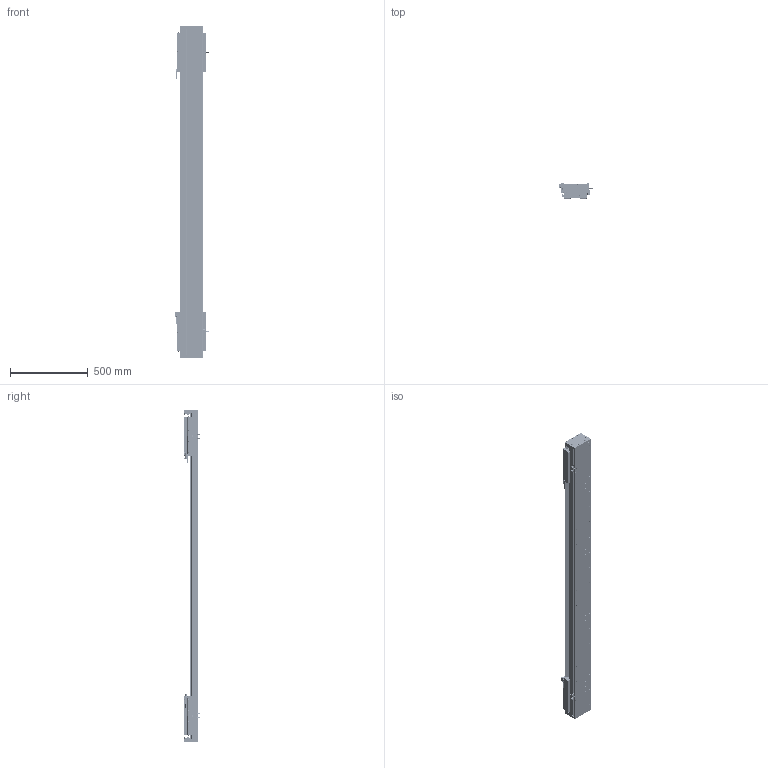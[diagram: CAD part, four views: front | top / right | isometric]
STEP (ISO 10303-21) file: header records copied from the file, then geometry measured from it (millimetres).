
FILE_DESCRIPTION (( 'STEP AP203' ), '1' );
FILE_NAME ('DA-C145-2-C3-T1520-C010-0.2 眻盄萇儂.STEP', '2025-08-13T10:21:19', ( '' ), ( '' ), 'SwSTEP 2.0', 'SolidWorks 2019', '' );
FILE_SCHEMA (( 'CONFIG_CONTROL_DESIGN' ));
Length unit declared in the file: millimetre
Products named in the file (38): 复件 DA146 钢带拉块^复件 CU145 钢带组件_DA-C145-2-C3-T-C010-0.2; CU145-W-00 珨极趙賑雄怢啣; 葩璃 鞠褒情蹟譫 M3^DA-C145-2-C3-T-C010-0.2; 葩璃 PM-Y65^DA-C145-2-C3-T-C010-0.2; 葩璃 DA145-C3-DP-B-00 菜えB^CU145-W 幗紩賑怢; 葩璃 DA95-HXJ-00 遣喳砎蝶^DA-C145-2-C3-T-C010-0.2; 复件 DA145-C3-YB-A-00 压板A^CU145-W 滚珠滑台; CU145-W 幗紩賑怢-1; 66245-CU145-HT-W-00 賑雄怢啣(3D芞祧)(00); 葩璃 DA95-GT-T-00^IU-CU145-L 菁釱絳寢; 复件 DA145 钢带^复件 CU145 钢带组件_DA-C145-2-C3-T-C010-0.2; DKW-GYP-ZJ-00 笢潔嫖萇覜茼え; 复件 DA146 钢带垫块^复件 CU145 钢带组件_DA-C145-2-C3-T-C010-0.2; 复件 DA145-GYP-00 光电感应片^DA-C145-2-C3-T-C010-0.2; 复件 半圆头内六角螺钉 M3×6^CU145-W 滚珠滑台; 葩璃 XD-U-02L 棠掑喜^DA-C145-2-C3-T-C010-0.2; DKW168-HXJ-ZJ-00 笢潔滅袉砎蝶; 葩璃 CKM03-W060-C1C2-TP-0.2^DA-C145-2-C3-T-C010-0.2; 复件 内六角平端紧定螺钉 GB.T77-2000 M5×10^CU145-W 滚珠滑台; 复件 DA95-HK-GT-00 滑块钢轨^CU145-W-00 一体化滑动台板; DKW-KGZ-ZJ-00 中间光电开关支架; 复件 DA95-DB-00  挡板^CU145-W 滚珠滑台; 葩璃 DA145-C3-DP-A-00 菜えA^CU145-W 幗紩賑怢; IU-CU145-L 菁釱絳寢; 复件 DA145-C3-DK-00 挡块^CU145-W 滚珠滑台; IU-CU145-L-00 菁釱(L2100); CU145-W 幗紩賑怢; 葩璃 CKMA01-W060-TRL^DA-C145-2-C3-T-C010-0.2; 复件 DA145-C3-YB-B-00 压板B^CU145-W 滚珠滑台; 复件 DA95-MFP-01 密封片^CU145-W 滚珠滑台; TAY01-M8; 葩璃 CU145 詩湍郪璃^DA-C145-2-C3-T-C010-0.2; 葩璃 DMA-010-0.2 黍杅芛^DA-C145-2-C3-T-C010-0.2; 复件 纯铜油杯 6x6mm^CU145-W 滚珠滑台; DA-C145-2-C3-T1520-C010-0.2 眻盄萇儂; 葩璃 PM-T45^DA-C145-2-C3-T-C010-0.2; 复件 DA145-DG 钢带端盖^复件 CU145 钢带组件_DA-C145-2-C3-T-C010-0.2; CU145-W-00 珨极趙賑雄怢啣-1
Assembly tree (180 placements, depth 4):
  DA-C145-2-C3-T1520-C010-0.2 眻盄萇儂
    IU-CU145-L 菁釱絳寢
      IU-CU145-L-00 菁釱(L2100)
      葩璃 DA95-GT-T-00^IU-CU145-L 菁釱絳寢  x4
    葩璃 CU145 詩湍郪璃^DA-C145-2-C3-T-C010-0.2
      复件 DA145-DG 钢带端盖^复件 CU145 钢带组件_DA-C145-2-C3-T-C010-0.2  x2
      复件 DA146 钢带拉块^复件 CU145 钢带组件_DA-C145-2-C3-T-C010-0.2  x2
      复件 DA146 钢带垫块^复件 CU145 钢带组件_DA-C145-2-C3-T-C010-0.2  x2
      复件 DA145 钢带^复件 CU145 钢带组件_DA-C145-2-C3-T-C010-0.2
    CU145-W 幗紩賑怢
      CU145-W-00 珨极趙賑雄怢啣
        66245-CU145-HT-W-00 賑雄怢啣(3D芞祧)(00)
        复件 DA95-HK-GT-00 滑块钢轨^CU145-W-00 一体化滑动台板  x8
      复件 DA95-MFP-01 密封片^CU145-W 滚珠滑台  x8
      复件 DA95-DB-00  挡板^CU145-W 滚珠滑台  x8
      复件 内六角平端紧定螺钉 GB.T77-2000 M5×10^CU145-W 滚珠滑台  x4
      复件 纯铜油杯 6x6mm^CU145-W 滚珠滑台  x4
      复件 半圆头内六角螺钉 M3×6^CU145-W 滚珠滑台  x16
      复件 DA145-C3-DK-00 挡块^CU145-W 滚珠滑台  x4
      葩璃 DA145-C3-DP-B-00 菜えB^CU145-W 幗紩賑怢  x2
      复件 DA145-C3-YB-B-00 压板B^CU145-W 滚珠滑台  x2
      葩璃 DA145-C3-DP-A-00 菜えA^CU145-W 幗紩賑怢  x3
      复件 DA145-C3-YB-A-00 压板A^CU145-W 滚珠滑台  x3
      TAY01-M8  x4
    CU145-W 幗紩賑怢-1
      CU145-W-00 珨极趙賑雄怢啣-1
        66245-CU145-HT-W-00 賑雄怢啣(3D芞祧)(00)
        复件 DA95-HK-GT-00 滑块钢轨^CU145-W-00 一体化滑动台板  x8
      复件 DA95-MFP-01 密封片^CU145-W 滚珠滑台  x8
      复件 DA95-DB-00  挡板^CU145-W 滚珠滑台  x8
      复件 内六角平端紧定螺钉 GB.T77-2000 M5×10^CU145-W 滚珠滑台  x4
      复件 纯铜油杯 6x6mm^CU145-W 滚珠滑台  x4
      复件 半圆头内六角螺钉 M3×6^CU145-W 滚珠滑台  x16
      复件 DA145-C3-DK-00 挡块^CU145-W 滚珠滑台  x4
      葩璃 DA145-C3-DP-B-00 菜えB^CU145-W 幗紩賑怢  x2
      复件 DA145-C3-YB-B-00 压板B^CU145-W 滚珠滑台  x2
      葩璃 DA145-C3-DP-A-00 菜えA^CU145-W 幗紩賑怢  x3
      复件 DA145-C3-YB-A-00 压板A^CU145-W 滚珠滑台  x3
      TAY01-M8  x4
    葩璃 CKMA01-W060-TRL^DA-C145-2-C3-T-C010-0.2
    葩璃 PM-T45^DA-C145-2-C3-T-C010-0.2  x4
    葩璃 XD-U-02L 棠掑喜^DA-C145-2-C3-T-C010-0.2
    葩璃 DA95-HXJ-00 遣喳砎蝶^DA-C145-2-C3-T-C010-0.2  x4
    葩璃 CKM03-W060-C1C2-TP-0.2^DA-C145-2-C3-T-C010-0.2  x2
    葩璃 DMA-010-0.2 黍杅芛^DA-C145-2-C3-T-C010-0.2  x2
    复件 DA145-GYP-00 光电感应片^DA-C145-2-C3-T-C010-0.2  x2
    DKW-GYP-ZJ-00 笢潔嫖萇覜茼え
    DKW-KGZ-ZJ-00 中间光电开关支架
    葩璃 PM-Y65^DA-C145-2-C3-T-C010-0.2
    葩璃 鞠褒情蹟譫 M3^DA-C145-2-C3-T-C010-0.2  x8
    DKW168-HXJ-ZJ-00 笢潔滅袉砎蝶
Bounding box: 213.7 x 108.45 x 2136 mm (x, y, z)
Volume: 12396608.9 mm3; surface area: 3828366.5 mm2
Topology: 175 solids, 239 shells, 7385 faces, 19713 edges, 12161 vertices
Faces by surface type: cylinder 3102, plane 2943, cone 1184, torus 140, sphere 8, bspline 8
Entity records: 129308 total; most frequent: CARTESIAN_POINT 35654, ORIENTED_EDGE 18112, DIRECTION 17601, EDGE_CURVE 9056, AXIS2_PLACEMENT_3D 6455, VERTEX_POINT 5860, LINE 4691, VECTOR 4691
